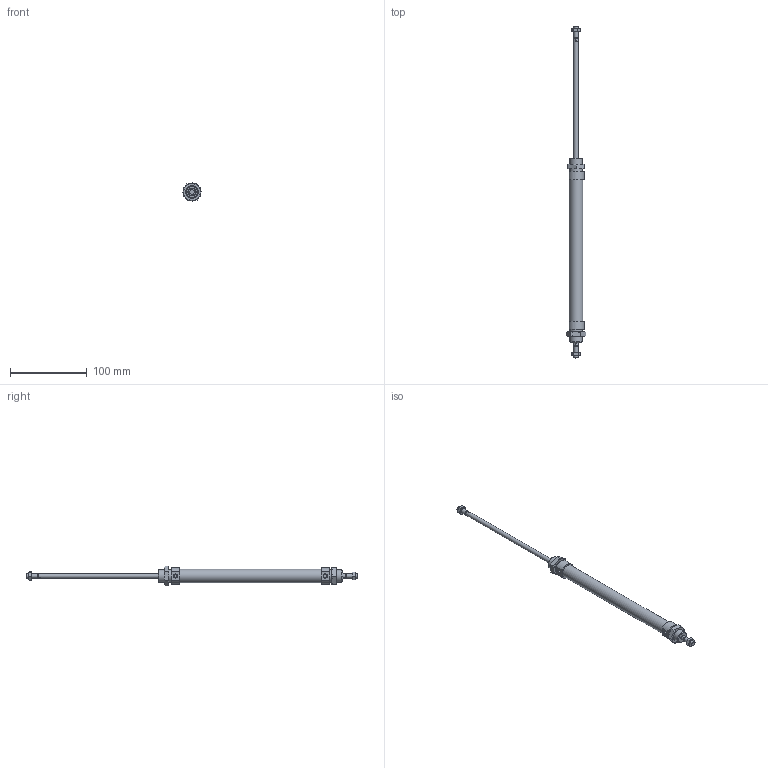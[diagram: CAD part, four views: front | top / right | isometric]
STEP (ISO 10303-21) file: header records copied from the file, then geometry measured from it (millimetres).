
FILE_DESCRIPTION((''),'2;1');
FILE_NAME('I:\Area Tecnica\Disegni\VARIE-3D\Componenti\1280\1282_##_####_#\1282_16_0150.iam.stp','2009-06-03T15:24:47',(''),(''),'Autodesk Inventor 2010','Autodesk Inventor 2010','');
FILE_SCHEMA(('AUTOMOTIVE_DESIGN { 1 0 10303 214 1 1 1 1 }'));
Length unit declared in the file: millimetre
Products named in the file (5): 1282_16_0150; C1282_16_150; S1282_16_150; 1200_16_05; 1200_16_06
Assembly tree (6 placements, depth 2):
  1282_16_0150
    C1282_16_150
    S1282_16_150
    1200_16_05  x2
    1200_16_06  x2
Bounding box: 25.4 x 432 x 25.4 mm (x, y, z)
Volume: 65625.6 mm3; surface area: 29678.3 mm2
Topology: 6 solids, 6 shells, 135 faces, 283 edges, 168 vertices
Faces by surface type: plane 56, cone 52, bspline 16, cylinder 11
Full cylindrical faces by diameter (mm): 5 x2, 6 x4, 16 x2, 17.2 x1
Entity records: 2543 total; most frequent: CARTESIAN_POINT 619, DIRECTION 358, ORIENTED_EDGE 316, AXIS2_PLACEMENT_3D 159, EDGE_CURVE 158, EDGE_LOOP 124, VERTEX_POINT 106, STYLED_ITEM 93
